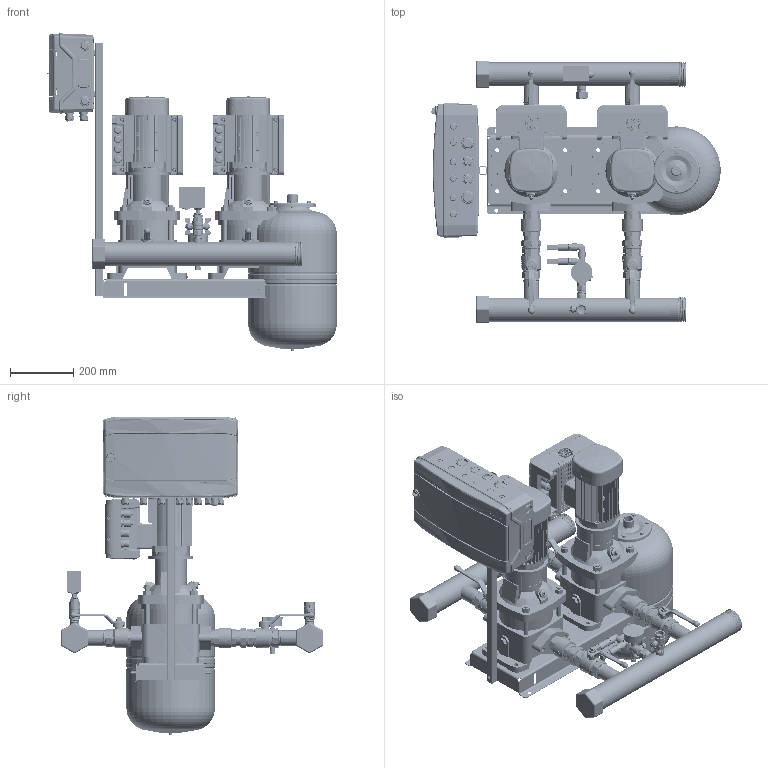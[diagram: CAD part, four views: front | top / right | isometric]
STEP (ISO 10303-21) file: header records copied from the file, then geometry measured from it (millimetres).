
FILE_DESCRIPTION(('CATIA V5 STEP Exchange','CAx-IF Rec.Pracs.--- Model Styling and Organization---1.4--- 2014-01-23','CAx-IF Rec.Pracs.---3D Tessellated Data Validation Properties---0.5---2014-09-14'),'2;1');
FILE_NAME('C:\Users\78432\YandexDisk\Drawings and 3D\3D Hydro Booster\Hydro-ME 3D\Hydro Models\Hydro ME 2 CRV10-xx\Hydro ME 2 CRVE10-2.stp','2023-09-20T09:05:09+00:00',('none'),('none'),'CATIA Version 5-6 Release 2019 SP6','CATIA V5 STEP AP242 v1','none');
FILE_SCHEMA(('AP242_MANAGED_MODEL_BASED_3D_ENGINEERING_MIM_LF {1 0 10303 442 1 1 4}'));
Length unit declared in the file: millimetre
Products named in the file (46): Hydro ME 2 CRVE10-2; 92051008; CRV10-2 Set; CRV 10-2_A_Oval_0.75kW; Base; Flange.1; Flange.2; Sleeve; Pumphead; Staybolt.1; Staybolt.2; Staybolt.3; Staybolt.4; Plug; AirVent; Motor; 92807544_9022-05; Hydraulica NY DN32 1,5 PN16; DN40_FM_LV_47.303.40; 92807557_9013-05; SAJ PDH30 0,75-2,2kW; 97941444; 405801; 405816; 91040267; 97941481; 00ID7527; Holder and CP 18mod; 92878909; Control ME (18mod); 2 sensors + manometer cpl.; manometr 16 bar; RPD-I-G1_2; 9021-01; 2070 1/2-1/2; _2020 1/2-1/2; 98594078; Tank 24L cpl.; DN20_FF_BF_47.300.20; WAV-24(D140 1'')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
Assembly tree (53 placements, depth 4):
  Hydro ME 2 CRVE10-2
    92051008
    CRV10-2 Set  x2
      CRV 10-2_A_Oval_0.75kW
        Base
        Flange.1
        Flange.2
        Sleeve
        Pumphead
        Staybolt.1
        Staybolt.2
        Staybolt.3
        Staybolt.4
        Plug
        AirVent
        Motor
      92807544_9022-05
      Hydraulica NY DN32 1,5 PN16
      DN40_FM_LV_47.303.40
      92807557_9013-05
      SAJ PDH30 0,75-2,2kW
    97941444  x2
      405801
      405816
      91040267
      97941481
    00ID7527  x2
    Holder and CP 18mod
      92878909
      Control ME (18mod)
    2 sensors + manometer cpl.
      manometr 16 bar
      RPD-I-G1_2  x2
      9021-01
      2070 1/2-1/2
      _2020 1/2-1/2
      98594078
    Tank 24L cpl.
      DN20_FF_BF_47.300.20
      9021-03
    Relay cpl.
      Relay RD-2R
      DN20_FF_BF_47.300.20
      2530 3/4-1/2
      _2530 1/2-1/4
    91078139
  WAV-24(D140 1'')
Bounding box: 916.82 x 829.22 x 1009.9 mm (x, y, z)
Volume: 54444022.4 mm3; surface area: 5987241 mm2
Topology: 168 solids, 186 shells, 24563 faces, 70738 edges, 47304 vertices
Faces by surface type: plane 9660, bspline 6514, cylinder 6097, cone 1541, torus 338, extrusion 260, sphere 153
Entity records: 592930 total; most frequent: CARTESIAN_POINT 289641, ORIENTED_EDGE 78276, EDGE_CURVE 39611, DIRECTION 35967, VERTEX_POINT 26439, VECTOR 16595, LINE 16530, B_SPLINE_CURVE_WITH_KNOTS 15530
